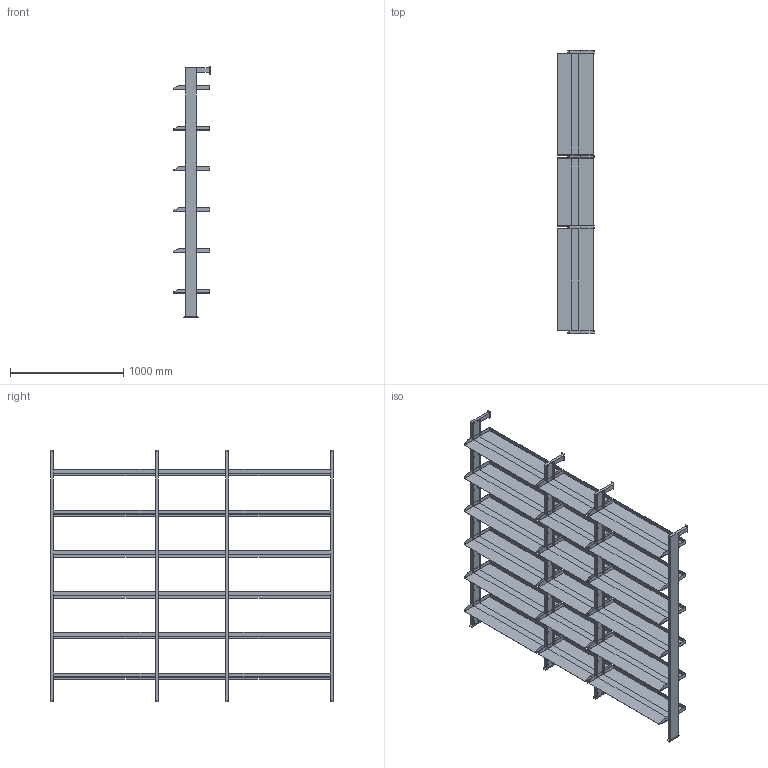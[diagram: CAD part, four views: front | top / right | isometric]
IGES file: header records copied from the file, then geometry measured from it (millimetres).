
Start section: Comment
Global section: file name: Regal - 2200 x 2400 - Wand.igs; native system:  By UGS Corp.; preprocessor: XPlus GENERIC/IGES 3.0; author: Author; organization: Title; date: 20170123.125520; units: inch
Bounding box: 325.1 x 2500 x 2226 mm (x, y, z)
Surface area: 13922011.3 mm2 (no closed solid volume)
Topology: 0 solids, 0 shells, 810 faces, 4008 edges, 4008 vertices
Faces by surface type: bspline 810
